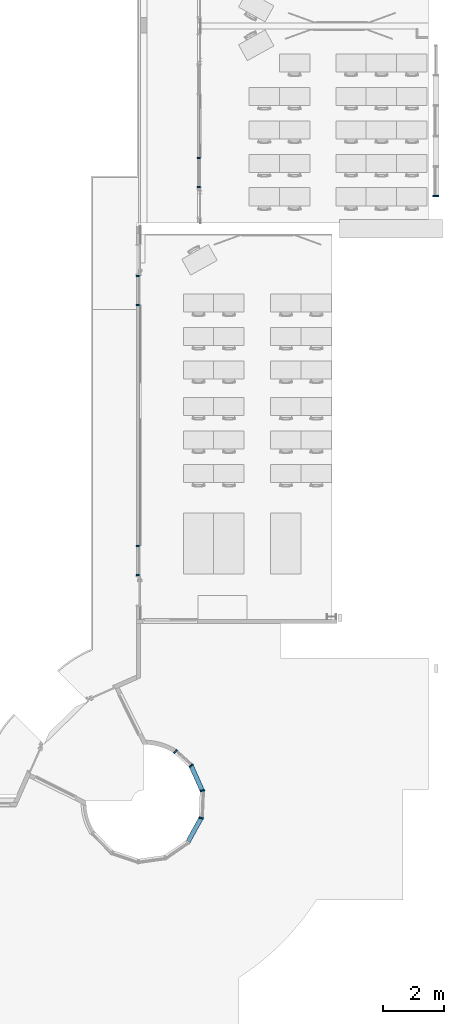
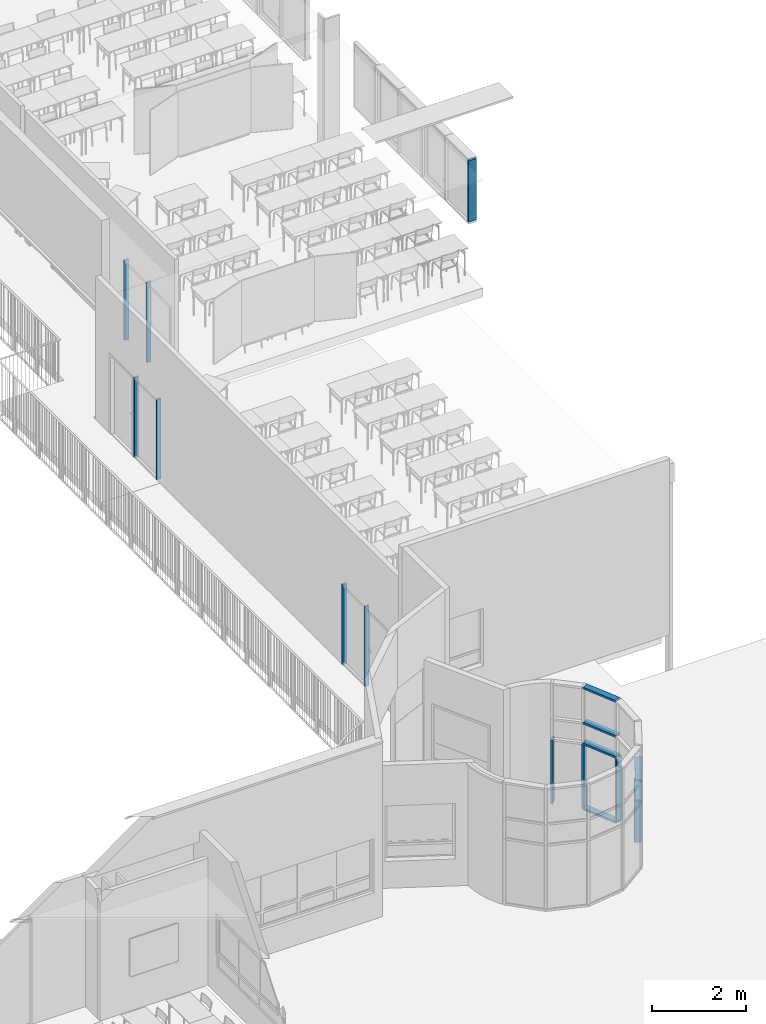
# One storey, part 5 of 44: 19 members, 7 elements without a shape of their own.
"""IFC2X3 building model written with IfcOpenShell, lengths in centimetres."""

from ifc_helpers import new_model, entity, si_unit, converted_unit, derived_unit, direction, frame, frame_2d, origin, origin_2d_with_axis, place, context, subcontext, project, spatial, polyline, rectangle, extrude, clip, halfspace, bounded_halfspace, material, type_object, element, aggregate, save


model = new_model("IFC2X3")

# Units and contexts
model_context = context("Model", 3, precision=0.001, world=origin(), true_north=direction((6.12303176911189e-17, 1.0)))
body_context = subcontext(model_context, "Body", "Model", "MODEL_VIEW")
ifc_project = project(units=[si_unit("LENGTHUNIT", "METRE", prefix="CENTI"), si_unit("AREAUNIT", "SQUARE_METRE"), si_unit("VOLUMEUNIT", "CUBIC_METRE"), converted_unit("PLANEANGLEUNIT", "DEGREE", entity("IfcRatioMeasure", 0.0174532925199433), si_unit("PLANEANGLEUNIT", "RADIAN"), dimensions=[0, 0, 0, 0, 0, 0, 0]), si_unit("MASSUNIT", "GRAM", prefix="KILO"), si_unit("TIMEUNIT", "SECOND"), si_unit("FREQUENCYUNIT", "HERTZ"), si_unit("THERMODYNAMICTEMPERATUREUNIT", "DEGREE_CELSIUS"), derived_unit("THERMALTRANSMITTANCEUNIT", [(si_unit("MASSUNIT", "GRAM", prefix="KILO"), 1), (si_unit("THERMODYNAMICTEMPERATUREUNIT", "KELVIN"), -1), (si_unit("TIMEUNIT", "SECOND"), -3)]), derived_unit("VOLUMETRICFLOWRATEUNIT", [(si_unit("LENGTHUNIT", "METRE"), 3), (si_unit("TIMEUNIT", "SECOND"), -1)]), si_unit("ELECTRICCURRENTUNIT", "AMPERE"), si_unit("ELECTRICVOLTAGEUNIT", "VOLT"), si_unit("POWERUNIT", "WATT"), si_unit("FORCEUNIT", "NEWTON", prefix="KILO"), si_unit("ILLUMINANCEUNIT", "LUX"), si_unit("LUMINOUSFLUXUNIT", "LUMEN"), si_unit("LUMINOUSINTENSITYUNIT", "CANDELA"), derived_unit("USERDEFINED", [(si_unit("MASSUNIT", "GRAM", prefix="KILO"), -1), (si_unit("LENGTHUNIT", "METRE"), -2), (si_unit("TIMEUNIT", "SECOND"), 3), (si_unit("LUMINOUSFLUXUNIT", "LUMEN"), 1)]), derived_unit("LINEARVELOCITYUNIT", [(si_unit("LENGTHUNIT", "METRE"), 1), (si_unit("TIMEUNIT", "SECOND"), -1)]), si_unit("PRESSUREUNIT", "PASCAL"), derived_unit("USERDEFINED", [(si_unit("LENGTHUNIT", "METRE"), -2), (si_unit("MASSUNIT", "GRAM", prefix="KILO"), 1), (si_unit("TIMEUNIT", "SECOND"), -2)])], contexts=[model_context])

# Site, building, storey
site_placement = place(None, frame((8.62739174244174, -249.285249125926, 0.0)))
site = spatial("IfcSite", under=ifc_project, at=site_placement, Name="Default", CompositionType="ELEMENT")
building_placement = place(site_placement, origin())
building = spatial("IfcBuilding", under=site, at=building_placement, CompositionType="ELEMENT")
storey_placement = place(building_placement, frame((0.0, 0.0, 343.0)))
storey = spatial("IfcBuildingStorey", under=building, at=storey_placement, Name="R+1", CompositionType="ELEMENT", Elevation=343.0)

# Curtain wall, member
curtain_wall_type_1 = type_object("IfcCurtainWallType", Name="Mur-rideau:Simple panneau", PredefinedType="NOTDEFINED")
curtain_wall_1_placement = place(storey_placement, frame((0.0, 0.0, -343.0)))
curtain_wall_1 = element("IfcCurtainWall", 1, at=curtain_wall_1_placement, inside=storey, type_object=curtain_wall_type_1, Name="Mur-rideau:Simple panneau", ObjectType="Mur-rideau:Simple panneau")
ifc_material = material(Name="Plastique, blanc opaque")
member_1_placement = place(curtain_wall_1_placement, frame((0.0, 0.0, 343.0)))
member_1 = element("IfcMember", 2, at=member_1_placement, material=ifc_material, Name="Mur-rideau:Simple panneau", ObjectType="Mur-rideau:Simple panneau", context=body_context, shape_type="SweptSolid", body=[
    extrude(rectangle(XDim=20.0000000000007, YDim=5.00000000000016, at=frame_2d((0.0, 2.16715534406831e-13), x_axis=(1.0, 0.0))), frame((4003.90482781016, 2744.18519336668, 113.0), z_axis=(0.0, 0.0, 1.0), x_axis=(-1.0, 0.0, 0.0)), (0.0, 0.0, 1.0), 160.0),
])
aggregate(curtain_wall_1, [member_1])

# Curtain wall, members
curtain_wall_type_2 = type_object("IfcCurtainWallType", Name="Mur-rideau:1 m x 1 m - Meneaux", PredefinedType="NOTDEFINED")
curtain_wall_2_placement = place(storey_placement, frame((0.0, 0.0, -343.0)))
curtain_wall_2 = element("IfcCurtainWall", 3, at=curtain_wall_2_placement, inside=storey, type_object=curtain_wall_type_2, Name="Mur-rideau:1 m x 1 m - Meneaux", ObjectType="Mur-rideau:1 m x 1 m - Meneaux")
member_2_placement = place(curtain_wall_2_placement, frame((0.0, 0.0, 343.0)))
member_2 = element("IfcMember", 4, at=member_2_placement, material=ifc_material, Name="Mur-rideau:1 m x 1 m - Meneaux:661", ObjectType="Mur-rideau:1 m x 1 m - Meneaux:661", context=body_context, shape_type="SweptSolid", body=[
    extrude(rectangle(XDim=14.9999999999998, YDim=4.99999999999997, at=frame_2d((4.04121180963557e-14, 3.64153152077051e-14), x_axis=(1.0, 0.0))), frame((3148.02798174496, 919.053198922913, 5.0), z_axis=(0.0, 0.0, 1.0), x_axis=(0.669435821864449, 0.74286989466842, 0.0)), (0.0, 0.0, 1.0), 167.0),
])
member_3_placement = place(curtain_wall_2_placement, frame((0.0, 0.0, 343.0)))
member_3 = element("IfcMember", 5, at=member_3_placement, material=ifc_material, Name="Mur-rideau:1 m x 1 m - Meneaux:661", ObjectType="Mur-rideau:1 m x 1 m - Meneaux:661", context=body_context, shape_type="Clipping", body=[
    clip(clip(clip(clip(extrude(rectangle(XDim=4.99999999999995, YDim=14.9999999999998, at=frame_2d((0.0, 4.61408689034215e-13), x_axis=(1.0, 0.0))), frame((3199.67885537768, 872.073923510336, 317.5), z_axis=(0.409618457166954, -0.912256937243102, 0.0), x_axis=(0.0, 0.0, -1.0)), (0.0, 0.0, 1.0), 88.4011679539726), bounded_halfspace(frame((3206.82552822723, 875.379512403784, 226.0), z_axis=(-0.608123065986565, 0.793842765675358, 0.0), x_axis=(0.793842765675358, 0.608123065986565, 0.0)), False, frame((3199.67885537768, 872.073923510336, 317.5), z_axis=(0.409618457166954, -0.912256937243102, 0.0), x_axis=(0.0, 0.0, -1.0)), polyline([(-2.49999999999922, 7.50000000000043), (2.50000000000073, 7.49999999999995), (2.49999999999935, -6.72567292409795), (-2.50000000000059, -6.72567292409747), (-2.49999999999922, 7.50000000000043)]))), bounded_halfspace(frame((3194.9178867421, 866.257666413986, 226.0), z_axis=(0.793842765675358, 0.608123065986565, 0.0), x_axis=(0.608123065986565, -0.793842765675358, 0.0)), False, frame((3199.67885537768, 872.073923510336, 317.5), z_axis=(0.409618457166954, -0.912256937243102, 0.0), x_axis=(0.0, 0.0, -1.0)), polyline([(2.49999999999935, -6.72567292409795), (2.49999999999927, -7.49999999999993), (-2.50000000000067, -7.49999999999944), (-2.50000000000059, -6.72567292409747), (2.49999999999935, -6.72567292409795)]))), bounded_halfspace(frame((3228.37949047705, 791.735682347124, 226.0), z_axis=(0.189229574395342, -0.981932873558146, 0.0), x_axis=(0.981932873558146, 0.189229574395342, 0.0)), False, frame((3199.67885537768, 872.073923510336, 317.5), z_axis=(0.409618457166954, -0.912256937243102, 0.0), x_axis=(0.0, 0.0, -1.0)), polyline([(-2.49999999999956, 7.50000000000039), (-2.50000000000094, -6.72567292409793), (2.49999999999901, -6.72567292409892), (2.50000000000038, 7.49999999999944), (-2.49999999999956, 7.50000000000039)]))), bounded_halfspace(frame((3229.32563834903, 786.826017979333, 226.0), z_axis=(0.981932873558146, 0.189229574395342, 0.0), x_axis=(0.189229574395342, -0.981932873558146, 0.0)), False, frame((3199.67885537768, 872.073923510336, 317.5), z_axis=(0.409618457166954, -0.912256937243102, 0.0), x_axis=(0.0, 0.0, -1.0)), polyline([(-2.50000000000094, -6.72567292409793), (-2.50000000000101, -7.4999999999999), (2.49999999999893, -7.50000000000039), (2.49999999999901, -6.72567292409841), (-2.50000000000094, -6.72567292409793)]))),
])
member_4_placement = place(curtain_wall_2_placement, frame((0.0, 0.0, 343.0)))
member_4 = element("IfcMember", 6, at=member_4_placement, material=ifc_material, Name="Mur-rideau:1 m x 1 m - Meneaux:661", ObjectType="Mur-rideau:1 m x 1 m - Meneaux:661", context=body_context, shape_type="Clipping", body=[
    clip(clip(extrude(rectangle(XDim=5.0, YDim=14.9999999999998, at=frame_2d((-2.70894418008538e-14, -2.22044604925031e-14), x_axis=(1.0, 0.0))), frame((3236.94175769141, 789.086107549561, 2.49999999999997), z_axis=(-0.409618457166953, 0.912256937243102, 0.0), x_axis=(0.0, 0.0, -1.0)), (0.0, 0.0, 1.0), 93.3493961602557), halfspace(frame((3236.21706096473, 790.700071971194, -30.48), z_axis=(0.189229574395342, -0.981932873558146, 0.0), x_axis=(0.981932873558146, 0.189229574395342, 0.0)), False)), halfspace(frame((3199.3513998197, 872.803196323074, -30.48), z_axis=(-0.588895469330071, 0.808209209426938, 0.0), x_axis=(0.808209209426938, 0.588895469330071, 0.0)), False)),
])
member_5_placement = place(curtain_wall_2_placement, frame((0.0, 0.0, 343.0)))
member_5 = element("IfcMember", 7, at=member_5_placement, material=ifc_material, Name="Mur-rideau:1 m x 1 m - Meneaux:661", ObjectType="Mur-rideau:1 m x 1 m - Meneaux:661", context=body_context, shape_type="SweptSolid", body=[
    extrude(rectangle(XDim=5.00000000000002, YDim=15.0, at=origin_2d_with_axis()), frame((3232.50284315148, 700.776745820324, 5.0), z_axis=(0.0, 0.0, 1.0), x_axis=(0.269562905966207, 0.962982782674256, 0.0)), (0.0, 0.0, 1.0), 167.0),
])
member_6_placement = place(curtain_wall_2_placement, frame((0.0, 0.0, 343.0)))
member_6 = element("IfcMember", 8, at=member_6_placement, material=ifc_material, Name="Mur-rideau:1 m x 1 m - Meneaux:661", ObjectType="Mur-rideau:1 m x 1 m - Meneaux:661", context=body_context, shape_type="SweptSolid", body=[
    extrude(rectangle(XDim=4.99999999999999, YDim=14.9999999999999, at=origin_2d_with_axis()), frame((3236.21706096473, 790.700071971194, 5.0), z_axis=(0.0, 0.0, 1.0), x_axis=(-0.189229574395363, 0.981932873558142, 0.0)), (0.0, 0.0, 1.0), 167.0),
])
member_7_placement = place(curtain_wall_2_placement, frame((0.0, 0.0, 343.0)))
member_7 = element("IfcMember", 9, at=member_7_placement, material=ifc_material, Name="Mur-rideau:1 m x 1 m - Meneaux:661", ObjectType="Mur-rideau:1 m x 1 m - Meneaux:661", context=body_context, shape_type="SweptSolid", body=[
    extrude(rectangle(XDim=14.9999999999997, YDim=5.00000000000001, at=origin_2d_with_axis()), frame((3199.3513998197, 872.803196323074, 5.0), z_axis=(0.0, 0.0, 1.0), x_axis=(0.793842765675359, 0.608123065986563, 0.0)), (0.0, 0.0, 1.0), 167.0),
])
member_8_placement = place(curtain_wall_2_placement, frame((0.0, 0.0, 343.0)))
member_8 = element("IfcMember", 10, at=member_8_placement, material=ifc_material, Name="Mur-rideau:1 m x 1 m - Meneaux:661", ObjectType="Mur-rideau:1 m x 1 m - Meneaux:661", context=body_context, shape_type="Clipping", body=[
    clip(clip(clip(clip(clip(clip(clip(clip(extrude(rectangle(XDim=4.99999999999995, YDim=14.9999999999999, at=frame_2d((-1.08357767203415e-13, -2.62012633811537e-14), x_axis=(1.0, 0.0))), frame((3232.11636143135, 700.076961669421, 226.0), z_axis=(-0.483455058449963, -0.875369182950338, 0.0), x_axis=(0.0, 0.0, -1.0)), (0.0, 0.0, 1.0), 88.4011679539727), bounded_halfspace(frame((3239.05130675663, 696.347567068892, 226.0), z_axis=(0.269562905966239, 0.962982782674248, 0.0), x_axis=(0.962982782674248, -0.269562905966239, 0.0)), False, frame((3232.11636143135, 700.076961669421, 226.0), z_axis=(-0.483455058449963, -0.875369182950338, 0.0), x_axis=(0.0, 0.0, -1.0)), polyline([(-2.50000000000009, 7.49999999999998), (0.0, 7.49999999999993), (0.0, -6.72567292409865), (-2.50000000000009, -6.72567292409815), (-2.50000000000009, 7.49999999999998)]))), bounded_halfspace(frame((3239.05130675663, 696.347567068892, 172.0), z_axis=(0.269562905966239, 0.962982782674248, 0.0), x_axis=(0.962982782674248, -0.269562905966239, 0.0)), False, frame((3232.11636143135, 700.076961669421, 226.0), z_axis=(-0.483455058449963, -0.875369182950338, 0.0), x_axis=(0.0, 0.0, -1.0)), polyline([(0.0, 7.49999999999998), (2.49999999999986, 7.49999999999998), (2.49999999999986, -6.72567292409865), (0.0, -6.72567292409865), (0.0, 7.49999999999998)]))), bounded_halfspace(frame((3224.60656501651, 700.391010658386, 226.0), z_axis=(0.962982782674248, -0.269562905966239, 0.0), x_axis=(0.269562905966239, 0.962982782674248, 0.0)), False, frame((3232.11636143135, 700.076961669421, 226.0), z_axis=(-0.483455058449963, -0.875369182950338, 0.0), x_axis=(0.0, 0.0, -1.0)), polyline([(0.0, -7.49999999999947), (-2.50000000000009, -7.49999999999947), (-2.50000000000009, -6.72567292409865), (0.0, -6.72567292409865), (0.0, -7.49999999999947)]))), bounded_halfspace(frame((3224.60656501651, 700.391010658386, 172.0), z_axis=(0.962982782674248, -0.269562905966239, 0.0), x_axis=(0.269562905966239, 0.962982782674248, 0.0)), False, frame((3232.11636143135, 700.076961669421, 226.0), z_axis=(-0.483455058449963, -0.875369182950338, 0.0), x_axis=(0.0, 0.0, -1.0)), polyline([(2.49999999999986, -6.72567292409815), (2.49999999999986, -7.49999999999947), (0.0, -7.49999999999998), (0.0, -6.72567292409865), (2.49999999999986, -6.72567292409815)]))), bounded_halfspace(frame((3185.11327240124, 628.882375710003, 226.0), z_axis=(-0.671518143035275, -0.740988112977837, 0.0), x_axis=(0.740988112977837, -0.671518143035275, 0.0)), False, frame((3232.11636143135, 700.076961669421, 226.0), z_axis=(-0.483455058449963, -0.875369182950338, 0.0), x_axis=(0.0, 0.0, -1.0)), polyline([(-2.50000000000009, 7.50000000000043), (-2.50000000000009, -6.72567292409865), (0.0, -6.72567292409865), (0.0, 7.50000000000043), (-2.50000000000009, 7.50000000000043)]))), bounded_halfspace(frame((3181.75568168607, 625.177435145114, 226.0), z_axis=(0.740988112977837, -0.671518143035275, 0.0), x_axis=(0.671518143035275, 0.740988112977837, 0.0)), False, frame((3232.11636143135, 700.076961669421, 226.0), z_axis=(-0.483455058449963, -0.875369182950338, 0.0), x_axis=(0.0, 0.0, -1.0)), polyline([(-2.50000000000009, -6.7256729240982), (-2.50000000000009, -7.49999999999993), (0.0, -7.49999999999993), (0.0, -6.72567292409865), (-2.50000000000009, -6.7256729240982)]))), bounded_halfspace(frame((3185.11327240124, 628.882375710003, 172.0), z_axis=(-0.671518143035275, -0.740988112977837, 0.0), x_axis=(0.740988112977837, -0.671518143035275, 0.0)), False, frame((3232.11636143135, 700.076961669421, 226.0), z_axis=(-0.483455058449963, -0.875369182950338, 0.0), x_axis=(0.0, 0.0, -1.0)), polyline([(2.49999999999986, -6.72567292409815), (2.49999999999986, 7.50000000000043), (0.0, 7.49999999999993), (0.0, -6.72567292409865), (2.49999999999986, -6.72567292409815)]))), bounded_halfspace(frame((3181.75568168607, 625.177435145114, 172.0), z_axis=(0.740988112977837, -0.671518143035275, 0.0), x_axis=(0.671518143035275, 0.740988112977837, 0.0)), False, frame((3232.11636143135, 700.076961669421, 226.0), z_axis=(-0.483455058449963, -0.875369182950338, 0.0), x_axis=(0.0, 0.0, -1.0)), polyline([(0.0, -7.49999999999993), (2.49999999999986, -7.49999999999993), (2.49999999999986, -6.72567292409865), (0.0, -6.7256729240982), (0.0, -7.49999999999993)]))),
])
member_9_placement = place(curtain_wall_2_placement, frame((0.0, 0.0, 343.0)))
member_9 = element("IfcMember", 11, at=member_9_placement, material=ifc_material, Name="Mur-rideau:1 m x 1 m - Meneaux:661", ObjectType="Mur-rideau:1 m x 1 m - Meneaux:661", context=body_context, shape_type="Clipping", body=[
    clip(clip(clip(clip(clip(clip(clip(clip(extrude(rectangle(XDim=4.99999999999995, YDim=14.9999999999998, at=frame_2d((0.0, 4.61408689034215e-13), x_axis=(1.0, 0.0))), frame((3199.67885537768, 872.073923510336, 226.0), z_axis=(0.409618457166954, -0.912256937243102, 0.0), x_axis=(0.0, 0.0, -1.0)), (0.0, 0.0, 1.0), 88.4011679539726), bounded_halfspace(frame((3206.82552822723, 875.379512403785, 226.0), z_axis=(-0.608123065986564, 0.793842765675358, 0.0), x_axis=(0.793842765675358, 0.608123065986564, 0.0)), False, frame((3199.67885537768, 872.073923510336, 226.0), z_axis=(0.409618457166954, -0.912256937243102, 0.0), x_axis=(0.0, 0.0, -1.0)), polyline([(-2.49999999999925, 7.50000000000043), (0.0, 7.50000000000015), (0.0, -6.72567292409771), (-2.50000000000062, -6.72567292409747), (-2.49999999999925, 7.50000000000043)]))), bounded_halfspace(frame((3206.82552822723, 875.379512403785, 172.0), z_axis=(-0.608123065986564, 0.793842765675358, 0.0), x_axis=(0.793842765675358, 0.608123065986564, 0.0)), False, frame((3199.67885537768, 872.073923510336, 226.0), z_axis=(0.409618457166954, -0.912256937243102, 0.0), x_axis=(0.0, 0.0, -1.0)), polyline([(0.0, 7.50000000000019), (2.5000000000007, 7.49999999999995), (2.49999999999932, -6.72567292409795), (0.0, -6.72567292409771), (0.0, 7.50000000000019)]))), bounded_halfspace(frame((3194.9178867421, 866.257666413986, 226.0), z_axis=(0.793842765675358, 0.608123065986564, 0.0), x_axis=(0.608123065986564, -0.793842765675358, 0.0)), False, frame((3199.67885537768, 872.073923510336, 226.0), z_axis=(0.409618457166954, -0.912256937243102, 0.0), x_axis=(0.0, 0.0, -1.0)), polyline([(0.0, -7.49999999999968), (-2.5000000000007, -7.49999999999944), (-2.50000000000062, -6.72567292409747), (0.0, -6.72567292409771), (0.0, -7.49999999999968)]))), bounded_halfspace(frame((3194.9178867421, 866.257666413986, 172.0), z_axis=(0.793842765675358, 0.608123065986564, 0.0), x_axis=(0.608123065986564, -0.793842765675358, 0.0)), False, frame((3199.67885537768, 872.073923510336, 226.0), z_axis=(0.409618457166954, -0.912256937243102, 0.0), x_axis=(0.0, 0.0, -1.0)), polyline([(2.49999999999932, -6.72567292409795), (2.49999999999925, -7.49999999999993), (0.0, -7.49999999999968), (0.0, -6.72567292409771), (2.49999999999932, -6.72567292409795)]))), bounded_halfspace(frame((3228.37949047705, 791.735682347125, 226.0), z_axis=(0.189229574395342, -0.981932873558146, 0.0), x_axis=(0.981932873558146, 0.189229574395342, 0.0)), False, frame((3199.67885537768, 872.073923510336, 226.0), z_axis=(0.409618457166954, -0.912256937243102, 0.0), x_axis=(0.0, 0.0, -1.0)), polyline([(-2.49999999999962, 7.50000000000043), (-2.50000000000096, -6.72567292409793), (0.0, -6.72567292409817), (0.0, 7.49999999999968), (-2.49999999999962, 7.50000000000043)]))), bounded_halfspace(frame((3229.32563834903, 786.826017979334, 226.0), z_axis=(0.981932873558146, 0.189229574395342, 0.0), x_axis=(0.189229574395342, -0.981932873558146, 0.0)), False, frame((3199.67885537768, 872.073923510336, 226.0), z_axis=(0.409618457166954, -0.912256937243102, 0.0), x_axis=(0.0, 0.0, -1.0)), polyline([(-2.50000000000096, -6.72567292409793), (-2.50000000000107, -7.4999999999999), (0.0, -7.49999999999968), (0.0, -6.72567292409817), (-2.50000000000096, -6.72567292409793)]))), bounded_halfspace(frame((3228.37949047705, 791.735682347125, 172.0), z_axis=(0.189229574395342, -0.981932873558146, 0.0), x_axis=(0.981932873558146, 0.189229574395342, 0.0)), False, frame((3199.67885537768, 872.073923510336, 226.0), z_axis=(0.409618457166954, -0.912256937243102, 0.0), x_axis=(0.0, 0.0, -1.0)), polyline([(2.49999999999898, -6.72567292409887), (2.50000000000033, 7.49999999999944), (0.0, 7.50000000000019), (0.0, -6.72567292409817), (2.49999999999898, -6.72567292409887)]))), bounded_halfspace(frame((3229.32563834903, 786.826017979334, 172.0), z_axis=(0.981932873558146, 0.189229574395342, 0.0), x_axis=(0.189229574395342, -0.981932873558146, 0.0)), False, frame((3199.67885537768, 872.073923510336, 226.0), z_axis=(0.409618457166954, -0.912256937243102, 0.0), x_axis=(0.0, 0.0, -1.0)), polyline([(0.0, -7.50000000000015), (2.49999999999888, -7.50000000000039), (2.49999999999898, -6.72567292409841), (0.0, -6.72567292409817), (0.0, -7.50000000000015)]))),
])
member_10_placement = place(curtain_wall_2_placement, frame((0.0, 0.0, 343.0)))
member_10 = element("IfcMember", 12, at=member_10_placement, material=ifc_material, Name="Mur-rideau:1 m x 1 m - Meneaux:661", ObjectType="Mur-rideau:1 m x 1 m - Meneaux:661", context=body_context, shape_type="Clipping", body=[
    clip(clip(clip(clip(clip(clip(clip(clip(extrude(rectangle(XDim=4.99999999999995, YDim=14.9999999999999, at=frame_2d((0.0, -2.62012633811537e-14), x_axis=(1.0, 0.0))), frame((3232.11636143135, 700.076961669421, 172.0), z_axis=(-0.483455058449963, -0.875369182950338, 0.0), x_axis=(0.0, 0.0, -1.0)), (0.0, 0.0, 1.0), 88.4011679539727), bounded_halfspace(frame((3239.05130675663, 696.347567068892, 172.0), z_axis=(0.269562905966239, 0.962982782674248, 0.0), x_axis=(0.962982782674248, -0.269562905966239, 0.0)), False, frame((3232.11636143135, 700.076961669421, 172.0), z_axis=(-0.483455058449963, -0.875369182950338, 0.0), x_axis=(0.0, 0.0, -1.0)), polyline([(-2.49999999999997, 7.49999999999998), (0.0, 7.49999999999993), (0.0, -6.72567292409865), (-2.49999999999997, -6.72567292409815), (-2.49999999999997, 7.49999999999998)]))), bounded_halfspace(frame((3239.05130675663, 696.347567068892, 5.0), z_axis=(0.269562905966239, 0.962982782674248, 0.0), x_axis=(0.962982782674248, -0.269562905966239, 0.0)), False, frame((3232.11636143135, 700.076961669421, 172.0), z_axis=(-0.483455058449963, -0.875369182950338, 0.0), x_axis=(0.0, 0.0, -1.0)), polyline([(0.0, 7.49999999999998), (2.49999999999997, 7.49999999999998), (2.49999999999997, -6.72567292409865), (0.0, -6.72567292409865), (0.0, 7.49999999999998)]))), bounded_halfspace(frame((3224.60656501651, 700.391010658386, 172.0), z_axis=(0.962982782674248, -0.269562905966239, 0.0), x_axis=(0.269562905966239, 0.962982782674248, 0.0)), False, frame((3232.11636143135, 700.076961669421, 172.0), z_axis=(-0.483455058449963, -0.875369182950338, 0.0), x_axis=(0.0, 0.0, -1.0)), polyline([(0.0, -7.49999999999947), (-2.49999999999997, -7.49999999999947), (-2.49999999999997, -6.72567292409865), (0.0, -6.72567292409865), (0.0, -7.49999999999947)]))), bounded_halfspace(frame((3224.60656501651, 700.391010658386, 5.0), z_axis=(0.962982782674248, -0.269562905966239, 0.0), x_axis=(0.269562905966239, 0.962982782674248, 0.0)), False, frame((3232.11636143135, 700.076961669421, 172.0), z_axis=(-0.483455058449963, -0.875369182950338, 0.0), x_axis=(0.0, 0.0, -1.0)), polyline([(2.49999999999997, -6.72567292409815), (2.49999999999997, -7.49999999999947), (0.0, -7.49999999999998), (0.0, -6.72567292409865), (2.49999999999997, -6.72567292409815)]))), bounded_halfspace(frame((3185.11327240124, 628.882375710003, 172.0), z_axis=(-0.671518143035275, -0.740988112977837, 0.0), x_axis=(0.740988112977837, -0.671518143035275, 0.0)), False, frame((3232.11636143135, 700.076961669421, 172.0), z_axis=(-0.483455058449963, -0.875369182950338, 0.0), x_axis=(0.0, 0.0, -1.0)), polyline([(-2.49999999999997, 7.50000000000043), (-2.49999999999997, -6.72567292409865), (0.0, -6.72567292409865), (0.0, 7.50000000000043), (-2.49999999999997, 7.50000000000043)]))), bounded_halfspace(frame((3181.75568168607, 625.177435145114, 172.0), z_axis=(0.740988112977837, -0.671518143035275, 0.0), x_axis=(0.671518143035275, 0.740988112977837, 0.0)), False, frame((3232.11636143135, 700.076961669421, 172.0), z_axis=(-0.483455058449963, -0.875369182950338, 0.0), x_axis=(0.0, 0.0, -1.0)), polyline([(-2.49999999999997, -6.7256729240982), (-2.50000000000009, -7.49999999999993), (0.0, -7.49999999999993), (0.0, -6.72567292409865), (-2.49999999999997, -6.7256729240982)]))), bounded_halfspace(frame((3185.11327240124, 628.882375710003, 5.0), z_axis=(-0.671518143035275, -0.740988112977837, 0.0), x_axis=(0.740988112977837, -0.671518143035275, 0.0)), False, frame((3232.11636143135, 700.076961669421, 172.0), z_axis=(-0.483455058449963, -0.875369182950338, 0.0), x_axis=(0.0, 0.0, -1.0)), polyline([(2.49999999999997, -6.72567292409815), (2.50000000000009, 7.50000000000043), (0.0, 7.49999999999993), (0.0, -6.72567292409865), (2.49999999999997, -6.72567292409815)]))), bounded_halfspace(frame((3181.75568168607, 625.177435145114, 5.0), z_axis=(0.740988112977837, -0.671518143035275, 0.0), x_axis=(0.671518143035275, 0.740988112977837, 0.0)), False, frame((3232.11636143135, 700.076961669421, 172.0), z_axis=(-0.483455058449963, -0.875369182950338, 0.0), x_axis=(0.0, 0.0, -1.0)), polyline([(0.0, -7.49999999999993), (2.49999999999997, -7.49999999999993), (2.49999999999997, -6.72567292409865), (0.0, -6.7256729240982), (0.0, -7.49999999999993)]))),
])
member_11_placement = place(curtain_wall_2_placement, frame((0.0, 0.0, 343.0)))
member_11 = element("IfcMember", 13, at=member_11_placement, material=ifc_material, Name="Mur-rideau:1 m x 1 m - Meneaux:661", ObjectType="Mur-rideau:1 m x 1 m - Meneaux:661", context=body_context, shape_type="Clipping", body=[
    clip(clip(clip(clip(clip(clip(clip(clip(extrude(rectangle(XDim=4.99999999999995, YDim=14.9999999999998, at=frame_2d((0.0, 4.61408689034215e-13), x_axis=(1.0, 0.0))), frame((3199.67885537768, 872.073923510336, 172.0), z_axis=(0.409618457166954, -0.912256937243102, 0.0), x_axis=(0.0, 0.0, -1.0)), (0.0, 0.0, 1.0), 88.4011679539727), bounded_halfspace(frame((3206.82552822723, 875.379512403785, 172.0), z_axis=(-0.608123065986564, 0.793842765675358, 0.0), x_axis=(0.793842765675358, 0.608123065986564, 0.0)), False, frame((3199.67885537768, 872.073923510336, 172.0), z_axis=(0.409618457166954, -0.912256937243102, 0.0), x_axis=(0.0, 0.0, -1.0)), polyline([(-2.49999999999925, 7.50000000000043), (0.0, 7.50000000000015), (0.0, -6.72567292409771), (-2.50000000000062, -6.72567292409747), (-2.49999999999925, 7.50000000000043)]))), bounded_halfspace(frame((3206.82552822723, 875.379512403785, 5.0), z_axis=(-0.608123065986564, 0.793842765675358, 0.0), x_axis=(0.793842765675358, 0.608123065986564, 0.0)), False, frame((3199.67885537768, 872.073923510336, 172.0), z_axis=(0.409618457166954, -0.912256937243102, 0.0), x_axis=(0.0, 0.0, -1.0)), polyline([(0.0, 7.50000000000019), (2.5000000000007, 7.49999999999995), (2.49999999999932, -6.72567292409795), (0.0, -6.72567292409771), (0.0, 7.50000000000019)]))), bounded_halfspace(frame((3194.9178867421, 866.257666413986, 172.0), z_axis=(0.793842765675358, 0.608123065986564, 0.0), x_axis=(0.608123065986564, -0.793842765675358, 0.0)), False, frame((3199.67885537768, 872.073923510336, 172.0), z_axis=(0.409618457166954, -0.912256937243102, 0.0), x_axis=(0.0, 0.0, -1.0)), polyline([(0.0, -7.49999999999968), (-2.5000000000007, -7.49999999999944), (-2.50000000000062, -6.72567292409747), (0.0, -6.72567292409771), (0.0, -7.49999999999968)]))), bounded_halfspace(frame((3194.9178867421, 866.257666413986, 5.0), z_axis=(0.793842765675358, 0.608123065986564, 0.0), x_axis=(0.608123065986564, -0.793842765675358, 0.0)), False, frame((3199.67885537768, 872.073923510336, 172.0), z_axis=(0.409618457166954, -0.912256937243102, 0.0), x_axis=(0.0, 0.0, -1.0)), polyline([(2.49999999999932, -6.72567292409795), (2.49999999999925, -7.49999999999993), (0.0, -7.49999999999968), (0.0, -6.72567292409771), (2.49999999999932, -6.72567292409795)]))), bounded_halfspace(frame((3228.37949047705, 791.735682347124, 172.0), z_axis=(0.189229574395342, -0.981932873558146, 0.0), x_axis=(0.981932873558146, 0.189229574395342, 0.0)), False, frame((3199.67885537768, 872.073923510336, 172.0), z_axis=(0.409618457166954, -0.912256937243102, 0.0), x_axis=(0.0, 0.0, -1.0)), polyline([(-2.49999999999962, 7.50000000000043), (-2.50000000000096, -6.72567292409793), (0.0, -6.72567292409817), (0.0, 7.49999999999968), (-2.49999999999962, 7.50000000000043)]))), bounded_halfspace(frame((3229.32563834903, 786.826017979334, 172.0), z_axis=(0.981932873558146, 0.189229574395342, 0.0), x_axis=(0.189229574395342, -0.981932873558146, 0.0)), False, frame((3199.67885537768, 872.073923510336, 172.0), z_axis=(0.409618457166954, -0.912256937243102, 0.0), x_axis=(0.0, 0.0, -1.0)), polyline([(-2.50000000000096, -6.72567292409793), (-2.50000000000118, -7.4999999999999), (0.0, -7.49999999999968), (0.0, -6.72567292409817), (-2.50000000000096, -6.72567292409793)]))), bounded_halfspace(frame((3228.37949047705, 791.735682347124, 5.0), z_axis=(0.189229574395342, -0.981932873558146, 0.0), x_axis=(0.981932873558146, 0.189229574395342, 0.0)), False, frame((3199.67885537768, 872.073923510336, 172.0), z_axis=(0.409618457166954, -0.912256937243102, 0.0), x_axis=(0.0, 0.0, -1.0)), polyline([(2.49999999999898, -6.72567292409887), (2.50000000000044, 7.49999999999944), (0.0, 7.50000000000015), (0.0, -6.72567292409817), (2.49999999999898, -6.72567292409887)]))), bounded_halfspace(frame((3229.32563834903, 786.826017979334, 5.0), z_axis=(0.981932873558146, 0.189229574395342, 0.0), x_axis=(0.189229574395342, -0.981932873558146, 0.0)), False, frame((3199.67885537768, 872.073923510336, 172.0), z_axis=(0.409618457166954, -0.912256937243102, 0.0), x_axis=(0.0, 0.0, -1.0)), polyline([(0.0, -7.50000000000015), (2.49999999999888, -7.50000000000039), (2.49999999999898, -6.72567292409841), (0.0, -6.72567292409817), (0.0, -7.50000000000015)]))),
])
aggregate(curtain_wall_2, [member_2, member_3, member_4, member_5, member_6, member_7, member_8, member_9, member_10, member_11])

curtain_wall_3_placement = place(storey_placement, frame((0.0, 0.0, -343.0)))
curtain_wall_3 = element("IfcCurtainWall", 14, at=curtain_wall_3_placement, inside=storey, type_object=curtain_wall_type_1, Name="Mur-rideau:Simple panneau", ObjectType="Mur-rideau:Simple panneau")
member_12_placement = place(curtain_wall_3_placement, frame((0.0, 0.0, 343.0)))
member_12 = element("IfcMember", 15, at=member_12_placement, material=ifc_material, Name="Mur-rideau:Simple panneau", ObjectType="Mur-rideau:Simple panneau", context=body_context, shape_type="SweptSolid", body=[
    extrude(rectangle(XDim=10.0000000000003, YDim=5.00000000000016, at=frame_2d((0.0, -2.16715534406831e-13), x_axis=(1.0, 0.0))), frame((3224.90482780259, 2774.48020806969, 208.499999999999), z_axis=(0.0, 0.0, -1.0), x_axis=(-1.0, 0.0, 0.0)), (0.0, 0.0, 1.0), 208.499999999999),
])
member_13_placement = place(curtain_wall_3_placement, frame((0.0, 0.0, 343.0)))
member_13 = element("IfcMember", 16, at=member_13_placement, material=ifc_material, Name="Mur-rideau:Simple panneau", ObjectType="Mur-rideau:Simple panneau", context=body_context, shape_type="SweptSolid", body=[
    extrude(rectangle(XDim=10.0000000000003, YDim=5.00000000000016, at=frame_2d((0.0, 2.16715534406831e-13), x_axis=(1.0, 0.0))), frame((3224.90482780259, 2869.48020806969, 0.0), z_axis=(0.0, 0.0, 1.0), x_axis=(-1.0, 0.0, 0.0)), (0.0, 0.0, 1.0), 208.499999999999),
])
aggregate(curtain_wall_3, [member_12, member_13])

curtain_wall_4_placement = place(storey_placement, frame((0.0, 0.0, -343.0)))
curtain_wall_4 = element("IfcCurtainWall", 17, at=curtain_wall_4_placement, inside=storey, type_object=curtain_wall_type_1, Name="Mur-rideau:Simple panneau", ObjectType="Mur-rideau:Simple panneau")
member_14_placement = place(curtain_wall_4_placement, frame((0.0, 0.0, 343.0)))
member_14 = element("IfcMember", 18, at=member_14_placement, material=ifc_material, Name="Mur-rideau:Simple panneau", ObjectType="Mur-rideau:Simple panneau", context=body_context, shape_type="SweptSolid", body=[
    extrude(rectangle(XDim=10.0000000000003, YDim=5.00000000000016, at=frame_2d((0.0, 2.16715534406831e-13), x_axis=(1.0, 0.0))), frame((3024.98509457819, 2386.4805010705, 208.499999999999), z_axis=(0.0, 0.0, -1.0), x_axis=(-1.0, 0.0, 0.0)), (0.0, 0.0, 1.0), 208.499999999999),
])
member_15_placement = place(curtain_wall_4_placement, frame((0.0, 0.0, 343.0)))
member_15 = element("IfcMember", 19, at=member_15_placement, material=ifc_material, Name="Mur-rideau:Simple panneau", ObjectType="Mur-rideau:Simple panneau", context=body_context, shape_type="SweptSolid", body=[
    extrude(rectangle(XDim=10.0000000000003, YDim=5.00000000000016, at=frame_2d((-4.33431068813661e-13, -2.16715534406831e-13), x_axis=(1.0, 0.0))), frame((3024.98509457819, 2481.4805010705, 0.0), z_axis=(0.0, 0.0, 1.0), x_axis=(-1.0, 0.0, 0.0)), (0.0, 0.0, 1.0), 208.499999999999),
])
aggregate(curtain_wall_4, [member_14, member_15])

curtain_wall_5_placement = place(storey_placement, frame((0.0, 0.0, -343.0)))
curtain_wall_5 = element("IfcCurtainWall", 20, at=curtain_wall_5_placement, inside=storey, type_object=curtain_wall_type_1, Name="Mur-rideau:Simple panneau", ObjectType="Mur-rideau:Simple panneau")
member_16_placement = place(curtain_wall_5_placement, frame((0.0, 0.0, 343.0)))
member_16 = element("IfcMember", 21, at=member_16_placement, material=ifc_material, Name="Mur-rideau:Simple panneau", ObjectType="Mur-rideau:Simple panneau", context=body_context, shape_type="SweptSolid", body=[
    extrude(rectangle(XDim=10.0000000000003, YDim=4.99999999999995, at=frame_2d((-4.33431068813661e-13, -1.08357767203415e-13), x_axis=(1.0, 0.0))), frame((3024.98509457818, 1498.79782577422, 208.499999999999), z_axis=(0.0, 0.0, -1.0), x_axis=(-1.0, 0.0, 0.0)), (0.0, 0.0, 1.0), 208.499999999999),
])
member_17_placement = place(curtain_wall_5_placement, frame((0.0, 0.0, 343.0)))
member_17 = element("IfcMember", 22, at=member_17_placement, material=ifc_material, Name="Mur-rideau:Simple panneau", ObjectType="Mur-rideau:Simple panneau", context=body_context, shape_type="SweptSolid", body=[
    extrude(rectangle(XDim=10.0000000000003, YDim=4.99999999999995, at=frame_2d((0.0, -1.08357767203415e-13), x_axis=(1.0, 0.0))), frame((3024.98509457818, 1593.79782577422, 0.0), z_axis=(0.0, 0.0, 1.0), x_axis=(-1.0, 0.0, 0.0)), (0.0, 0.0, 1.0), 208.499999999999),
])
aggregate(curtain_wall_5, [member_16, member_17])

# Curtain wall, member
curtain_wall_6_placement = place(storey_placement, frame((0.0, 0.0, -343.0)))
curtain_wall_6 = element("IfcCurtainWall", 23, at=curtain_wall_6_placement, inside=storey, type_object=curtain_wall_type_1, Name="Mur-rideau:Simple panneau", ObjectType="Mur-rideau:Simple panneau")
member_18_placement = place(curtain_wall_6_placement, frame((0.0, 0.0, 343.0)))
member_18 = element("IfcMember", 24, at=member_18_placement, material=ifc_material, Name="Mur-rideau:Simple panneau", ObjectType="Mur-rideau:Simple panneau", context=body_context, shape_type="SweptSolid", body=[
    extrude(rectangle(XDim=20.0000000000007, YDim=5.00000000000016, at=frame_2d((0.0, 2.16715534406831e-13), x_axis=(1.0, 0.0))), frame((4003.90482781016, 2744.18519336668, 113.0), z_axis=(0.0, 0.0, 1.0), x_axis=(-1.0, 0.0, 0.0)), (0.0, 0.0, 1.0), 160.0),
])
aggregate(curtain_wall_6, [member_18])

curtain_wall_7_placement = place(storey_placement, frame((0.0, 0.0, -343.0)))
curtain_wall_7 = element("IfcCurtainWall", 25, at=curtain_wall_7_placement, inside=storey, type_object=curtain_wall_type_1, Name="Mur-rideau:Simple panneau", ObjectType="Mur-rideau:Simple panneau")
member_19_placement = place(curtain_wall_7_placement, frame((0.0, 0.0, 343.0)))
member_19 = element("IfcMember", 26, at=member_19_placement, material=ifc_material, Name="Mur-rideau:Simple panneau", ObjectType="Mur-rideau:Simple panneau", context=body_context, shape_type="SweptSolid", body=[
    extrude(rectangle(XDim=20.0000000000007, YDim=5.00000000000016, at=frame_2d((0.0, 2.16715534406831e-13), x_axis=(1.0, 0.0))), frame((4003.90482781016, 2744.18519336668, 113.0), z_axis=(0.0, 0.0, 1.0), x_axis=(-1.0, 0.0, 0.0)), (0.0, 0.0, 1.0), 160.0),
])
aggregate(curtain_wall_7, [member_19])

save(model, "model.ifc")
